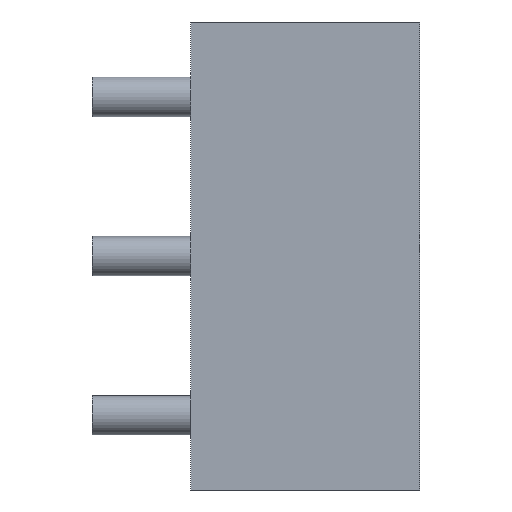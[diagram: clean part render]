
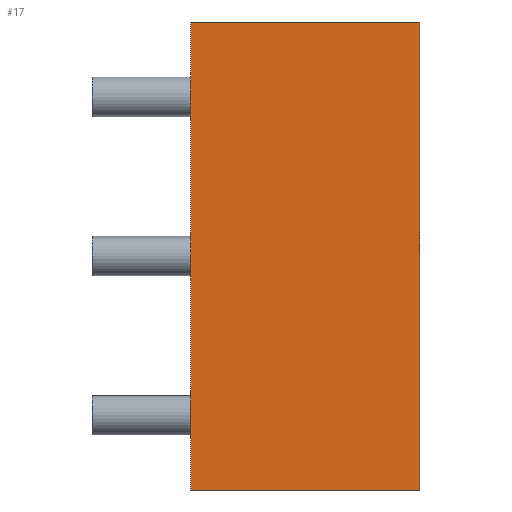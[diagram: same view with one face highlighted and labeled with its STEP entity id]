
A CAD part, left-side view. The second image highlights one B-rep face of the part: STEP entity #17.
In plain terms, the highlighted planar face has unit normal (-1, 0, 0).
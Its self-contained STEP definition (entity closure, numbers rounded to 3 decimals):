
#17 = ADVANCED_FACE('',(#18),#32,.F.);
#18 = FACE_BOUND('',#19,.F.);
#19 = EDGE_LOOP('',(#20,#55,#83,#111));
#20 = ORIENTED_EDGE('',*,*,#21,.F.);
#21 = EDGE_CURVE('',#22,#24,#26,.T.);
#22 = VERTEX_POINT('',#23);
#23 = CARTESIAN_POINT('',(-7.169,-3.6,-2.15));
#24 = VERTEX_POINT('',#25);
#25 = CARTESIAN_POINT('',(-7.169,-3.6,5.2));
#26 = SURFACE_CURVE('',#27,(#31,#43),.PCURVE_S1.);
#27 = LINE('',#28,#29);
#28 = CARTESIAN_POINT('',(-7.169,-3.6,-2.15));
#29 = VECTOR('',#30,1.);
#30 = DIRECTION('',(0.,0.,1.));
#31 = PCURVE('',#32,#37);
#32 = PLANE('',#33);
#33 = AXIS2_PLACEMENT_3D('',#34,#35,#36);
#34 = CARTESIAN_POINT('',(-7.169,-3.6,-2.15));
#35 = DIRECTION('',(1.,0.,-0.));
#36 = DIRECTION('',(0.,0.,1.));
#37 = DEFINITIONAL_REPRESENTATION('',(#38),#42);
#38 = LINE('',#39,#40);
#39 = CARTESIAN_POINT('',(0.,0.));
#40 = VECTOR('',#41,1.);
#41 = DIRECTION('',(1.,0.));
#42 = ( GEOMETRIC_REPRESENTATION_CONTEXT(2) 
PARAMETRIC_REPRESENTATION_CONTEXT() REPRESENTATION_CONTEXT('2D SPACE',''
  ) );
#43 = PCURVE('',#44,#49);
#44 = PLANE('',#45);
#45 = AXIS2_PLACEMENT_3D('',#46,#47,#48);
#46 = CARTESIAN_POINT('',(-7.169,-3.6,-2.15));
#47 = DIRECTION('',(-0.,1.,0.));
#48 = DIRECTION('',(0.,0.,1.));
#49 = DEFINITIONAL_REPRESENTATION('',(#50),#54);
#50 = LINE('',#51,#52);
#51 = CARTESIAN_POINT('',(0.,0.));
#52 = VECTOR('',#53,1.);
#53 = DIRECTION('',(1.,0.));
#54 = ( GEOMETRIC_REPRESENTATION_CONTEXT(2) 
PARAMETRIC_REPRESENTATION_CONTEXT() REPRESENTATION_CONTEXT('2D SPACE',''
  ) );
#55 = ORIENTED_EDGE('',*,*,#56,.T.);
#56 = EDGE_CURVE('',#22,#57,#59,.T.);
#57 = VERTEX_POINT('',#58);
#58 = CARTESIAN_POINT('',(-7.169,0.,-2.15));
#59 = SURFACE_CURVE('',#60,(#64,#71),.PCURVE_S1.);
#60 = LINE('',#61,#62);
#61 = CARTESIAN_POINT('',(-7.169,-3.6,-2.15));
#62 = VECTOR('',#63,1.);
#63 = DIRECTION('',(-0.,1.,0.));
#64 = PCURVE('',#32,#65);
#65 = DEFINITIONAL_REPRESENTATION('',(#66),#70);
#66 = LINE('',#67,#68);
#67 = CARTESIAN_POINT('',(0.,0.));
#68 = VECTOR('',#69,1.);
#69 = DIRECTION('',(0.,-1.));
#70 = ( GEOMETRIC_REPRESENTATION_CONTEXT(2) 
PARAMETRIC_REPRESENTATION_CONTEXT() REPRESENTATION_CONTEXT('2D SPACE',''
  ) );
#71 = PCURVE('',#72,#77);
#72 = PLANE('',#73);
#73 = AXIS2_PLACEMENT_3D('',#74,#75,#76);
#74 = CARTESIAN_POINT('',(-7.169,-3.6,-2.15));
#75 = DIRECTION('',(0.,0.,1.));
#76 = DIRECTION('',(1.,0.,-0.));
#77 = DEFINITIONAL_REPRESENTATION('',(#78),#82);
#78 = LINE('',#79,#80);
#79 = CARTESIAN_POINT('',(0.,0.));
#80 = VECTOR('',#81,1.);
#81 = DIRECTION('',(0.,1.));
#82 = ( GEOMETRIC_REPRESENTATION_CONTEXT(2) 
PARAMETRIC_REPRESENTATION_CONTEXT() REPRESENTATION_CONTEXT('2D SPACE',''
  ) );
#83 = ORIENTED_EDGE('',*,*,#84,.T.);
#84 = EDGE_CURVE('',#57,#85,#87,.T.);
#85 = VERTEX_POINT('',#86);
#86 = CARTESIAN_POINT('',(-7.169,0.,5.2));
#87 = SURFACE_CURVE('',#88,(#92,#99),.PCURVE_S1.);
#88 = LINE('',#89,#90);
#89 = CARTESIAN_POINT('',(-7.169,0.,-2.15));
#90 = VECTOR('',#91,1.);
#91 = DIRECTION('',(0.,0.,1.));
#92 = PCURVE('',#32,#93);
#93 = DEFINITIONAL_REPRESENTATION('',(#94),#98);
#94 = LINE('',#95,#96);
#95 = CARTESIAN_POINT('',(0.,-3.6));
#96 = VECTOR('',#97,1.);
#97 = DIRECTION('',(1.,0.));
#98 = ( GEOMETRIC_REPRESENTATION_CONTEXT(2) 
PARAMETRIC_REPRESENTATION_CONTEXT() REPRESENTATION_CONTEXT('2D SPACE',''
  ) );
#99 = PCURVE('',#100,#105);
#100 = PLANE('',#101);
#101 = AXIS2_PLACEMENT_3D('',#102,#103,#104);
#102 = CARTESIAN_POINT('',(-7.169,0.,-2.15));
#103 = DIRECTION('',(-0.,1.,0.));
#104 = DIRECTION('',(0.,0.,1.));
#105 = DEFINITIONAL_REPRESENTATION('',(#106),#110);
#106 = LINE('',#107,#108);
#107 = CARTESIAN_POINT('',(0.,0.));
#108 = VECTOR('',#109,1.);
#109 = DIRECTION('',(1.,0.));
#110 = ( GEOMETRIC_REPRESENTATION_CONTEXT(2) 
PARAMETRIC_REPRESENTATION_CONTEXT() REPRESENTATION_CONTEXT('2D SPACE',''
  ) );
#111 = ORIENTED_EDGE('',*,*,#112,.F.);
#112 = EDGE_CURVE('',#24,#85,#113,.T.);
#113 = SURFACE_CURVE('',#114,(#118,#125),.PCURVE_S1.);
#114 = LINE('',#115,#116);
#115 = CARTESIAN_POINT('',(-7.169,-3.6,5.2));
#116 = VECTOR('',#117,1.);
#117 = DIRECTION('',(-0.,1.,0.));
#118 = PCURVE('',#32,#119);
#119 = DEFINITIONAL_REPRESENTATION('',(#120),#124);
#120 = LINE('',#121,#122);
#121 = CARTESIAN_POINT('',(7.35,0.));
#122 = VECTOR('',#123,1.);
#123 = DIRECTION('',(0.,-1.));
#124 = ( GEOMETRIC_REPRESENTATION_CONTEXT(2) 
PARAMETRIC_REPRESENTATION_CONTEXT() REPRESENTATION_CONTEXT('2D SPACE',''
  ) );
#125 = PCURVE('',#126,#131);
#126 = PLANE('',#127);
#127 = AXIS2_PLACEMENT_3D('',#128,#129,#130);
#128 = CARTESIAN_POINT('',(-7.169,-3.6,5.2));
#129 = DIRECTION('',(0.,0.,1.));
#130 = DIRECTION('',(1.,0.,-0.));
#131 = DEFINITIONAL_REPRESENTATION('',(#132),#136);
#132 = LINE('',#133,#134);
#133 = CARTESIAN_POINT('',(0.,0.));
#134 = VECTOR('',#135,1.);
#135 = DIRECTION('',(0.,1.));
#136 = ( GEOMETRIC_REPRESENTATION_CONTEXT(2) 
PARAMETRIC_REPRESENTATION_CONTEXT() REPRESENTATION_CONTEXT('2D SPACE',''
  ) );
